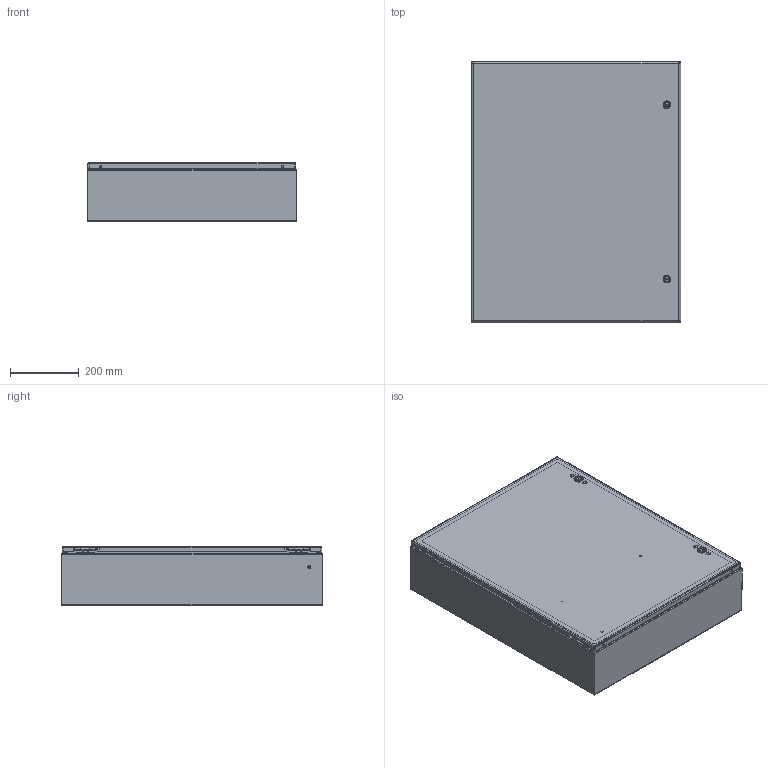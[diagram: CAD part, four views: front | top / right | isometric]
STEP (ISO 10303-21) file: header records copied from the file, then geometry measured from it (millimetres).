
FILE_DESCRIPTION (( 'STEP AP203' ), '1' );
FILE_NAME ('29408.step', '2015-03-30T06:17:02', ( '' ), ( '' ), 'SwSTEP 2.0', 'SolidWorks 2010', '' );
FILE_SCHEMA (( 'CONFIG_CONTROL_DESIGN' ));
Length unit declared in the file: inch
Products named in the file (24): 64201001; 87541994_Installed Height; 87541995; 64202001; 64210001; 64203001; 89057565; 87543027; 89076399; 89076193; 89056623; 87929507; 87929767; 87929769_Installed on Pin; 29408; 89116978; 89116977_default; 23271001_After Weld; 87937939_assy; 87937979_weldment; 87937915; 99401225; 87931362_87931362; 64101001
Assembly tree (32 placements, depth 4):
  29408
    87543027  x2
    89116978
      23271001_After Weld  x4
      99401225
      89116977_default
    87929507  x2
      87929767
      87929769_Installed on Pin
    89076399  x2
      89056623
      89076193
    87937939_assy
      89057565
      64101001  x2
        64203001
        64210001
        64202001
        87541995
        64201001
        87541994_Installed Height
      87937979_weldment
        87937915
        87931362_87931362  x2
        99401225
Bounding box: 609.6 x 762 x 173.1 mm (x, y, z)
Volume: 2470882.4 mm3; surface area: 3067627.4 mm2
Topology: 35 solids, 35 shells, 1541 faces, 3794 edges, 2344 vertices
Faces by surface type: plane 631, cylinder 510, bspline 224, torus 104, cone 64, sphere 8
Entity records: 34309 total; most frequent: CARTESIAN_POINT 9989, ORIENTED_EDGE 4564, DIRECTION 4346, EDGE_CURVE 2282, AXIS2_PLACEMENT_3D 1551, VERTEX_POINT 1404, VECTOR 1244, LINE 1244
